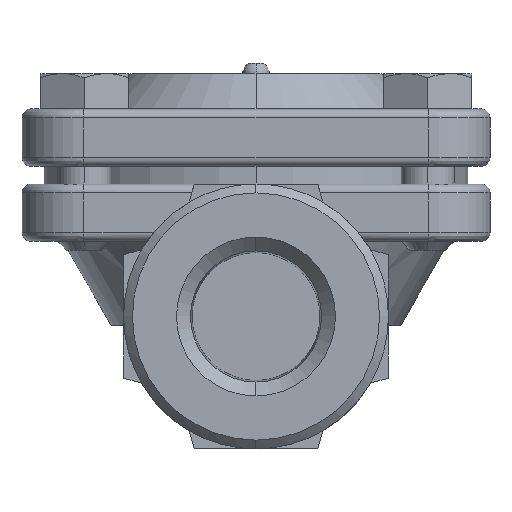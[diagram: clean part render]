
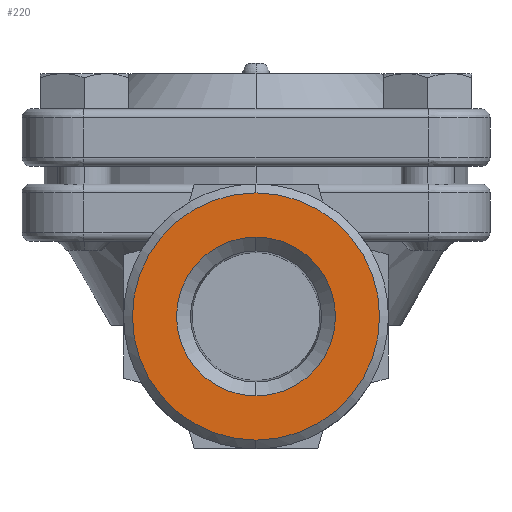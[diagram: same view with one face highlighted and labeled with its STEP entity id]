
A CAD part, left-side view. The second image highlights one B-rep face of the part: STEP entity #220.
In plain terms, the highlighted planar face has unit normal (-1, 0, 0).
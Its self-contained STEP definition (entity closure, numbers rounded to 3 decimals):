
#220=ADVANCED_FACE('',(#2098,#2099),#2097,.F.);
#2097=PLANE('',#4091);
#2098=FACE_OUTER_BOUND('',#4092,.T.);
#2099=FACE_BOUND('',#4093,.T.);
#4088=CARTESIAN_POINT('',(-37.5,-29.098,18.2));
#4089=DIRECTION('',(1.,0.,0.));
#4090=DIRECTION('',(0.,0.,-1.));
#4091=AXIS2_PLACEMENT_3D('',#4088,#4089,#4090);
#4092=EDGE_LOOP('',(#5418,#5419));
#4093=EDGE_LOOP('',(#5420,#5421));
#5418=ORIENTED_EDGE('',*,*,#6136,.T.);
#5419=ORIENTED_EDGE('',*,*,#6137,.T.);
#5420=ORIENTED_EDGE('',*,*,#6138,.F.);
#5421=ORIENTED_EDGE('',*,*,#6139,.F.);
#6136=EDGE_CURVE('',#9372,#9373,#9374,.T.);
#6137=EDGE_CURVE('',#9373,#9372,#9380,.T.);
#6138=EDGE_CURVE('',#9386,#9387,#9388,.T.);
#6139=EDGE_CURVE('',#9387,#9386,#9394,.T.);
#9372=VERTEX_POINT('',#12036);
#9373=VERTEX_POINT('',#12037);
#9374=CIRCLE('',#12041,14.);
#9380=CIRCLE('',#12045,14.);
#9386=VERTEX_POINT('',#12046);
#9387=VERTEX_POINT('',#12047);
#9388=CIRCLE('',#12051,9.);
#9394=CIRCLE('',#12055,9.);
#12036=CARTESIAN_POINT('',(-37.5,0.,14.));
#12037=CARTESIAN_POINT('',(-37.5,0.,-14.));
#12038=CARTESIAN_POINT('',(-37.5,0.,0.));
#12039=DIRECTION('',(-1.,0.,0.));
#12040=DIRECTION('',(0.,0.,1.));
#12041=AXIS2_PLACEMENT_3D('',#12038,#12039,#12040);
#12042=CARTESIAN_POINT('',(-37.5,0.,0.));
#12043=DIRECTION('',(-1.,0.,0.));
#12044=DIRECTION('',(0.,0.,1.));
#12045=AXIS2_PLACEMENT_3D('',#12042,#12043,#12044);
#12046=CARTESIAN_POINT('',(-37.5,0.,-9.));
#12047=CARTESIAN_POINT('',(-37.5,0.,9.));
#12048=CARTESIAN_POINT('',(-37.5,0.,0.));
#12049=DIRECTION('',(-1.,0.,0.));
#12050=DIRECTION('',(0.,0.,1.));
#12051=AXIS2_PLACEMENT_3D('',#12048,#12049,#12050);
#12052=CARTESIAN_POINT('',(-37.5,0.,0.));
#12053=DIRECTION('',(-1.,0.,0.));
#12054=DIRECTION('',(0.,0.,1.));
#12055=AXIS2_PLACEMENT_3D('',#12052,#12053,#12054);
